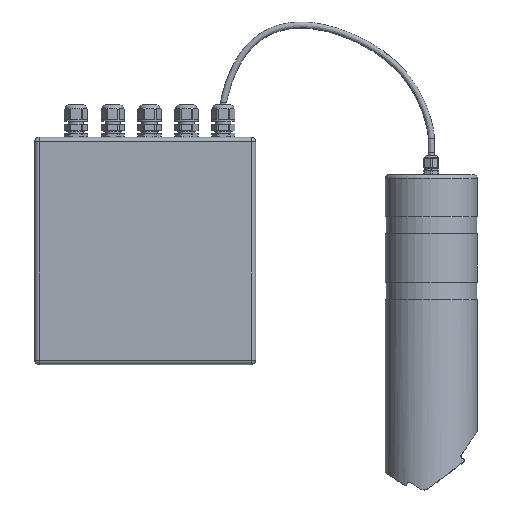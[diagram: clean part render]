
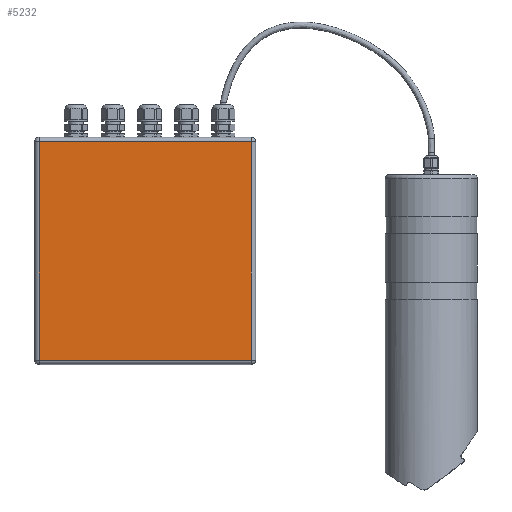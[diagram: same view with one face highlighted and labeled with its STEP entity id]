
A CAD part, front view. The second image highlights one B-rep face of the part: STEP entity #5232.
In plain terms, the highlighted planar face has unit normal (0, -1, 0).
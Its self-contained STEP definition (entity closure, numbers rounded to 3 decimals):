
#1=DIRECTION('',(0.,0.,1.));
#2=VECTOR('',#1,177.9);
#3=CARTESIAN_POINT('',(86.45,0.,-88.95));
#4=LINE('',#3,#2);
#5=DIRECTION('',(1.,0.,0.));
#6=VECTOR('',#5,172.9);
#7=CARTESIAN_POINT('',(-86.45,0.,-88.95));
#8=LINE('',#7,#6);
#9=DIRECTION('',(0.,0.,-1.));
#10=VECTOR('',#9,177.9);
#11=CARTESIAN_POINT('',(-86.45,0.,88.95));
#12=LINE('',#11,#10);
#13=DIRECTION('',(-1.,0.,0.));
#14=VECTOR('',#13,172.9);
#15=CARTESIAN_POINT('',(86.45,0.,88.95));
#16=LINE('',#15,#14);
#4021=CARTESIAN_POINT('',(86.45,0.,-88.95));
#4022=CARTESIAN_POINT('',(86.45,0.,88.95));
#4023=VERTEX_POINT('',#4021);
#4024=VERTEX_POINT('',#4022);
#4027=CARTESIAN_POINT('',(-86.45,0.,88.95));
#4028=VERTEX_POINT('',#4027);
#4031=CARTESIAN_POINT('',(-86.45,0.,-88.95));
#4032=VERTEX_POINT('',#4031);
#5217=CARTESIAN_POINT('',(0.,0.,0.));
#5218=DIRECTION('',(0.,1.,0.));
#5219=DIRECTION('',(1.,0.,0.));
#5220=AXIS2_PLACEMENT_3D('',#5217,#5218,#5219);
#5221=PLANE('',#5220);
#5223=ORIENTED_EDGE('',*,*,#5222,.F.);
#5225=ORIENTED_EDGE('',*,*,#5224,.F.);
#5227=ORIENTED_EDGE('',*,*,#5226,.F.);
#5229=ORIENTED_EDGE('',*,*,#5228,.F.);
#5230=EDGE_LOOP('',(#5223,#5225,#5227,#5229));
#5231=FACE_OUTER_BOUND('',#5230,.F.);
#5232=ADVANCED_FACE('',(#5231),#5221,.F.);
#5222=EDGE_CURVE('',#4023,#4024,#4,.T.);
#5224=EDGE_CURVE('',#4032,#4023,#8,.T.);
#5226=EDGE_CURVE('',#4028,#4032,#12,.T.);
#5228=EDGE_CURVE('',#4024,#4028,#16,.T.);
